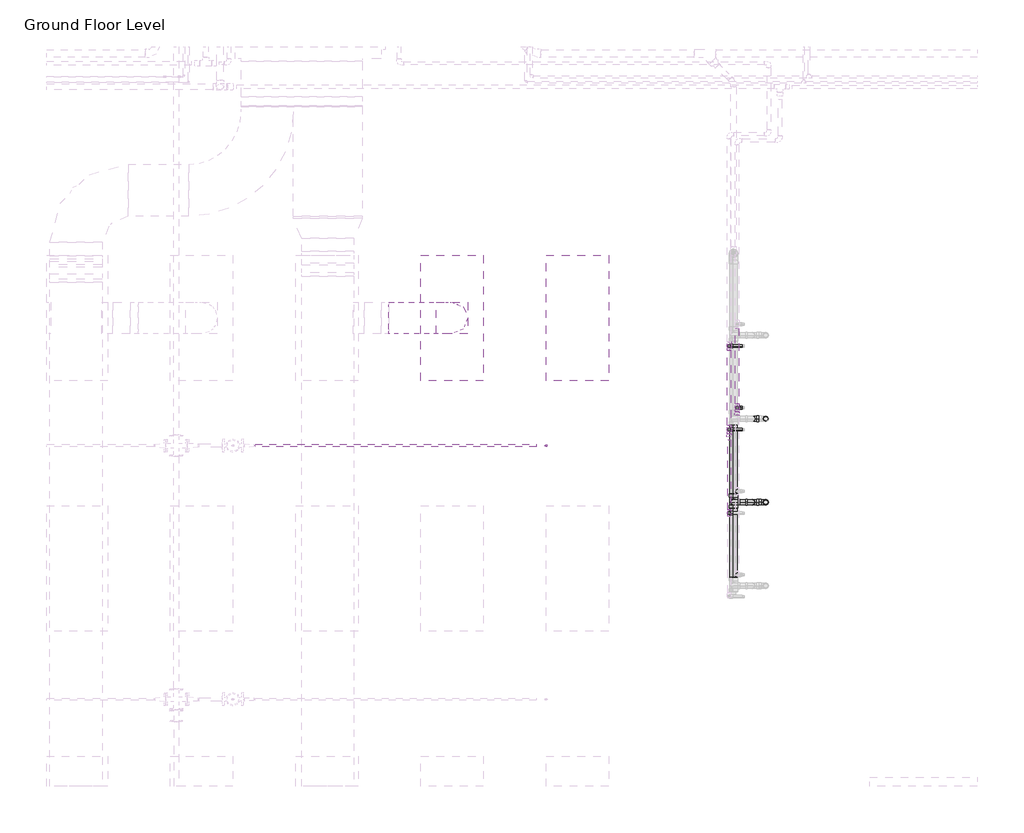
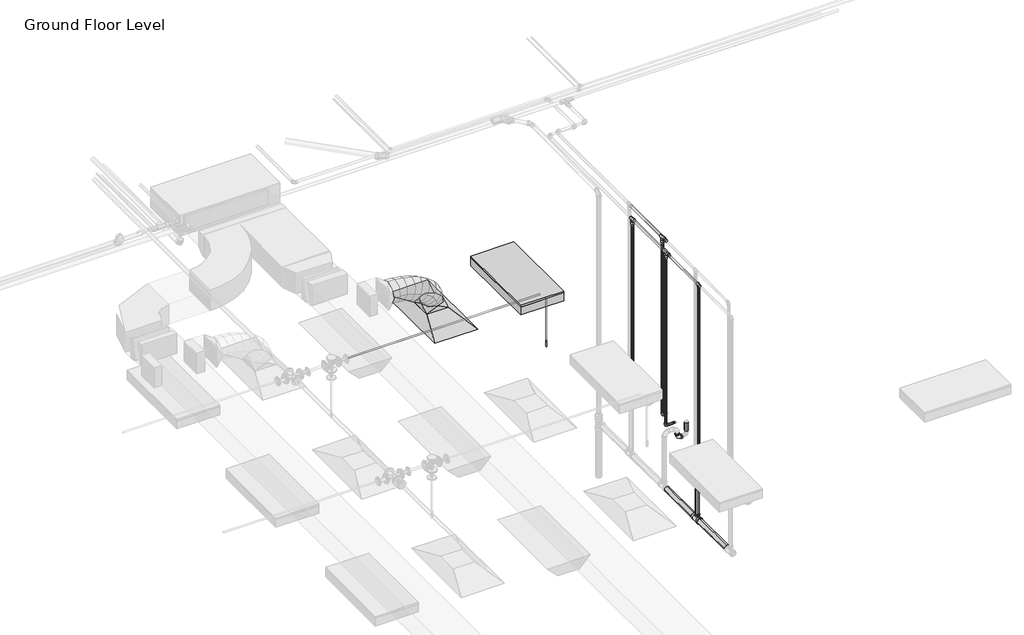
# One storey, part 50 of 74: 22 pipe segments, 19 pipe fittings, 1 air terminal, 1 duct fitting, 1 duct segment, 1 fire suppression terminal, 1 light fixture.
"""IFC4 building model written with IfcOpenShell, lengths in millimetres."""

from ifc_helpers import new_model, si_unit, point, frame, frame_2d, origin, place, context, project, spatial, circle_curve, ellipse_curve, trimmed, segment, composite_curve, outline, extrude, transform, mapped, element, save
from ifc_brep_helpers import plane_surface, cylinder_surface, advanced_brep
from components import m_return_diffuser_1200x600_1200_x_600_face_300_x_300_d1983ef6, m_rectangular_to_round_transition_angle_45_degree_641efff0, m_sprinkler_dry_pendent_hosted_15_mm_dry_pendent_9bda8e11, m_troffer_light_parabolic_rectangular1_0600x1200mm_4_lamp_86473d4a, m_bend_pvc_sch_40_dwv_standard_738aab8b, m_tee_reducing_sanitary_pvc_sch_40_dwv_standard_21d2848c, standard_b266ab3f, standard_72b35c3b, standard_e954f56a, standard_636910a4, standard_e5aa6446

model = new_model("IFC4")

# Units and contexts
model_context = context("Model", 3, world=origin())
ifc_project = project(units=[si_unit("LENGTHUNIT", "METRE", prefix="MILLI")], contexts=[model_context])

# Site, building, storey
site = spatial("IfcSite", under=ifc_project)
building = spatial("IfcBuilding", under=site)
storey = spatial("IfcBuildingStorey", under=building, Name="Ground Floor Level", Elevation=900.0)

# Air terminal
placement = place(None, origin())
m_return_diffuser_1200x600_1200_x_600_face_300_x_300_shape = m_return_diffuser_1200x600_1200_x_600_face_300_x_300_d1983ef6(model_context)
element("IfcAirTerminal", 1, ObjectType="M_Supply Diffuser 1200x600 : 1200 x 600 Face 300 x 300 Connection", at=placement, inside=storey, context=model_context, shape_type="MappedRepresentation", body=[
    mapped(m_return_diffuser_1200x600_1200_x_600_face_300_x_300_shape, transform((-3337.2327605, 11235.2153534, 3650.0), x_axis=(0.0, 1.0, 0.0), y_axis=(-1.0, 0.0, 0.0), z_axis=(0.0, 0.0, 1.0))),
])

# Duct fitting
m_rectangular_to_round_transition_angle_45_degree_shape = m_rectangular_to_round_transition_angle_45_degree_641efff0(model_context)
element("IfcDuctFitting", 2, ObjectType="M_Rectangular to Round Transition - Angle : 45 Degree", at=placement, inside=storey, context=model_context, shape_type="MappedRepresentation", body=[
    mapped(m_rectangular_to_round_transition_angle_45_degree_shape, transform((-3337.2327605, 11235.2153534, 3751.6), x_axis=(0.0, 0.0, 1.0), y_axis=(-1.0, 0.0, 0.0), z_axis=(0.0, -1.0, 0.0))),
])

# Duct segment
element("IfcDuctSegment", 3, ObjectType="Flex - Round", at=placement, inside=storey, context=model_context, shape_type="AdvancedBrep", body=[
    advanced_brep(
    [(-3187.2327605, 11235.2153534, 3826.6), (-3337.2327605, 11085.2153534, 3826.6), (-3487.2327605, 11235.2153534, 3826.6), (-3337.2327605, 11385.2153534, 3826.6), (-3187.2327605, 11235.2153534, 3882.126257), (-3337.2327605, 11085.2153534, 3857.3050511), (-3487.2327605, 11235.2153534, 3832.4838453), (-3337.2327605, 11385.2153534, 3857.3050511), (-3218.4262882, 11235.2153534, 3973.8000574), (-3353.8942835, 11085.2153534, 3906.2711428), (-3489.3622789, 11235.2153534, 3838.7422282), (-3353.8942835, 11385.2153534, 3906.2711428), (-3288.1608022, 11235.2153534, 4076.4131518), (-3399.7726231, 11085.2153534, 3973.7803017), (-3511.3844439, 11235.2153534, 3871.1474515), (-3399.7726231, 11385.2153534, 3973.7803017), (-3386.0893727, 11235.2153534, 4155.7119505), (-3468.7084348, 11085.2153534, 4029.6018768), (-3551.3274968, 11235.2153534, 3903.4918031), (-3468.7084348, 11385.2153534, 4029.6018768), (-3494.8345319, 11235.2153534, 4212.2274343), (-3554.5423743, 11085.2153534, 4074.2102682), (-3614.2502168, 11235.2153534, 3936.193102), (-3554.5423743, 11385.2153534, 4074.2102682), (-3609.1269227, 11235.2153534, 4252.3116148), (-3651.1150974, 11085.2153534, 4108.0798761), (-3693.1032721, 11235.2153534, 3963.8481373), (-3651.1150974, 11385.2153534, 4108.0798761), (-3724.8585456, 11235.2153534, 4279.3191535), (-3752.2672597, 11085.2153534, 4131.6851006), (-3779.6759737, 11235.2153534, 3984.0510476), (-3752.2672597, 11385.2153534, 4131.6851006), (-3837.5181627, 11235.2153534, 4294.9502122), (-3851.8395168, 11085.2153534, 4145.5003418), (-3866.1608709, 11235.2153534, 3996.0504715), (-3851.8395168, 11385.2153534, 4145.5003418), (-3932.3402653, 11235.2153534, 4300.0), (-3936.3315914, 11085.2153534, 4150.0), (-3940.3229175, 11235.2153534, 4000.0), (-3936.3315914, 11385.2153534, 4150.0), (-3943.6725245, 11235.2153534, 4300.0), (-3943.6725245, 11385.2153534, 4150.0), (-3943.6725245, 11235.2153534, 4000.0), (-3943.6725245, 11085.2153534, 4150.0)],
    [
        (0, 1, circle_curve(frame((-3337.2327605, 11235.2153534, 3826.6), z_axis=(0.0, 0.0, -1.0), x_axis=(1.0, 0.0, 0.0)), 150.0)),
        (1, 2, circle_curve(frame((-3337.2327605, 11235.2153534, 3826.6), z_axis=(0.0, 0.0, -1.0), x_axis=(1.0, 0.0, 0.0)), 150.0)),
        (2, 3, circle_curve(frame((-3337.2327605, 11235.2153534, 3826.6), z_axis=(0.0, 0.0, -1.0), x_axis=(1.0, 0.0, 0.0)), 150.0)),
        (3, 0, circle_curve(frame((-3337.2327605, 11235.2153534, 3826.6), z_axis=(0.0, 0.0, -1.0), x_axis=(1.0, 0.0, 0.0)), 150.0)),
        (0, 4),
        (4, 5, ellipse_curve(frame((-3337.2327605, 11235.2153534, 3857.3050511), z_axis=(0.16325469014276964, 0.0, -0.9865839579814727), x_axis=(-0.9865839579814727, 0.0, -0.16325469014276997)), 152.039772, 150.0)),
        (5, 1),
        (5, 6, ellipse_curve(frame((-3337.2327605, 11235.2153534, 3857.3050511), z_axis=(0.16325469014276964, 0.0, -0.9865839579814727), x_axis=(-0.9865839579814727, 0.0, -0.16325469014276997)), 152.039772, 150.0)),
        (6, 2),
        (6, 7, ellipse_curve(frame((-3337.2327605, 11235.2153534, 3857.3050511), z_axis=(0.16325469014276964, 0.0, -0.9865839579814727), x_axis=(-0.9865839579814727, 0.0, -0.16325469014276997)), 152.039772, 150.0)),
        (7, 3),
        (7, 4, ellipse_curve(frame((-3337.2327605, 11235.2153534, 3857.3050511), z_axis=(0.16325469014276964, 0.0, -0.9865839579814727), x_axis=(-0.9865839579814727, 0.0, -0.16325469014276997)), 152.039772, 150.0)),
        (4, 8),
        (8, 9, ellipse_curve(frame((-3353.8942835, 11235.2153534, 3906.2711428), z_axis=(0.4461293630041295, 0.0, -0.8949684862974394), x_axis=(-0.8949684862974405, 0.0, -0.4461293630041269)), 151.3662184, 150.0)),
        (9, 5),
        (9, 10, ellipse_curve(frame((-3353.8942835, 11235.2153534, 3906.2711428), z_axis=(0.4461293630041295, 0.0, -0.8949684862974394), x_axis=(-0.8949684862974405, 0.0, -0.4461293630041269)), 151.3662184, 150.0)),
        (10, 6),
        (10, 11, ellipse_curve(frame((-3353.8942835, 11235.2153534, 3906.2711428), z_axis=(0.4461293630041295, 0.0, -0.8949684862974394), x_axis=(-0.8949684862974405, 0.0, -0.4461293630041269)), 151.3662184, 150.0)),
        (11, 7),
        (11, 8, ellipse_curve(frame((-3353.8942835, 11235.2153534, 3906.2711428), z_axis=(0.4461293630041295, 0.0, -0.8949684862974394), x_axis=(-0.8949684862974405, 0.0, -0.4461293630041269)), 151.3662184, 150.0)),
        (8, 12),
        (12, 13, ellipse_curve(frame((-3399.7726231, 11235.2153534, 3973.7803017), z_axis=(0.6768778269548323, 0.0, -0.7360953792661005), x_axis=(-0.7360953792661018, 0.0, -0.676877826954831)), 151.6268462, 150.0)),
        (13, 9),
        (13, 14, ellipse_curve(frame((-3399.7726231, 11235.2153534, 3973.7803017), z_axis=(0.6768778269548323, 0.0, -0.7360953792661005), x_axis=(-0.7360953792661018, 0.0, -0.676877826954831)), 151.6268462, 150.0)),
        (14, 10),
        (14, 15, ellipse_curve(frame((-3399.7726231, 11235.2153534, 3973.7803017), z_axis=(0.6768778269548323, 0.0, -0.7360953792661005), x_axis=(-0.7360953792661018, 0.0, -0.676877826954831)), 151.6268462, 150.0)),
        (15, 11),
        (15, 12, ellipse_curve(frame((-3399.7726231, 11235.2153534, 3973.7803017), z_axis=(0.6768778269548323, 0.0, -0.7360953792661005), x_axis=(-0.7360953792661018, 0.0, -0.676877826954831)), 151.6268462, 150.0)),
        (12, 16),
        (16, 17, ellipse_curve(frame((-3468.7084348, 11235.2153534, 4029.6018768), z_axis=(0.8364756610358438, 0.0, -0.5480040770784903), x_axis=(-0.5480040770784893, 0.0, -0.8364756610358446)), 150.7635901, 150.0)),
        (17, 13),
        (17, 18, ellipse_curve(frame((-3468.7084348, 11235.2153534, 4029.6018768), z_axis=(0.8364756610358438, 0.0, -0.5480040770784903), x_axis=(-0.5480040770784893, 0.0, -0.8364756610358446)), 150.7635901, 150.0)),
        (18, 14),
        (18, 19, ellipse_curve(frame((-3468.7084348, 11235.2153534, 4029.6018768), z_axis=(0.8364756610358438, 0.0, -0.5480040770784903), x_axis=(-0.5480040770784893, 0.0, -0.8364756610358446)), 150.7635901, 150.0)),
        (19, 15),
        (19, 16, ellipse_curve(frame((-3468.7084348, 11235.2153534, 4029.6018768), z_axis=(0.8364756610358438, 0.0, -0.5480040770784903), x_axis=(-0.5480040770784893, 0.0, -0.8364756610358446)), 150.7635901, 150.0)),
        (16, 20),
        (20, 21, ellipse_curve(frame((-3554.5423743, 11235.2153534, 4074.2102682), z_axis=(0.9177970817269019, 0.0, -0.3970497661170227), x_axis=(-0.39704976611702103, 0.0, -0.9177970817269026)), 150.3787372, 150.0)),
        (21, 17),
        (21, 22, ellipse_curve(frame((-3554.5423743, 11235.2153534, 4074.2102682), z_axis=(0.9177970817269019, 0.0, -0.3970497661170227), x_axis=(-0.39704976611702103, 0.0, -0.9177970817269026)), 150.3787372, 150.0)),
        (22, 18),
        (22, 23, ellipse_curve(frame((-3554.5423743, 11235.2153534, 4074.2102682), z_axis=(0.9177970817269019, 0.0, -0.3970497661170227), x_axis=(-0.39704976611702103, 0.0, -0.9177970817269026)), 150.3787372, 150.0)),
        (23, 19),
        (23, 20, ellipse_curve(frame((-3554.5423743, 11235.2153534, 4074.2102682), z_axis=(0.9177970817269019, 0.0, -0.3970497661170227), x_axis=(-0.39704976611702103, 0.0, -0.9177970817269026)), 150.3787372, 150.0)),
        (20, 24),
        (24, 25, ellipse_curve(frame((-3651.1150974, 11235.2153534, 4108.0798761), z_axis=(0.9601419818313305, 0.0, -0.2795127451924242), x_axis=(-0.2795127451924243, 0.0, -0.9601419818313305)), 150.2191774, 150.0)),
        (25, 21),
        (25, 26, ellipse_curve(frame((-3651.1150974, 11235.2153534, 4108.0798761), z_axis=(0.9601419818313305, 0.0, -0.2795127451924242), x_axis=(-0.2795127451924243, 0.0, -0.9601419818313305)), 150.2191774, 150.0)),
        (26, 22),
        (26, 27, ellipse_curve(frame((-3651.1150974, 11235.2153534, 4108.0798761), z_axis=(0.9601419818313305, 0.0, -0.2795127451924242), x_axis=(-0.2795127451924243, 0.0, -0.9601419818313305)), 150.2191774, 150.0)),
        (27, 23),
        (27, 24, ellipse_curve(frame((-3651.1150974, 11235.2153534, 4108.0798761), z_axis=(0.9601419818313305, 0.0, -0.2795127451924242), x_axis=(-0.2795127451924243, 0.0, -0.9601419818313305)), 150.2191774, 150.0)),
        (24, 28),
        (28, 29, ellipse_curve(frame((-3752.2672597, 11235.2153534, 4131.6851006), z_axis=(0.9831995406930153, 0.0, -0.18253400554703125), x_axis=(-0.18253400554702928, 0.0, -0.9831995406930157)), 150.1567554, 150.0)),
        (29, 25),
        (29, 30, ellipse_curve(frame((-3752.2672597, 11235.2153534, 4131.6851006), z_axis=(0.9831995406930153, 0.0, -0.18253400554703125), x_axis=(-0.18253400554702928, 0.0, -0.9831995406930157)), 150.1567554, 150.0)),
        (30, 26),
        (30, 31, ellipse_curve(frame((-3752.2672597, 11235.2153534, 4131.6851006), z_axis=(0.9831995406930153, 0.0, -0.18253400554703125), x_axis=(-0.18253400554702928, 0.0, -0.9831995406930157)), 150.1567554, 150.0)),
        (31, 27),
        (31, 28, ellipse_curve(frame((-3752.2672597, 11235.2153534, 4131.6851006), z_axis=(0.9831995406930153, 0.0, -0.18253400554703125), x_axis=(-0.18253400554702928, 0.0, -0.9831995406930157)), 150.1567554, 150.0)),
        (28, 32),
        (32, 33, ellipse_curve(frame((-3851.8395168, 11235.2153534, 4145.5003418), z_axis=(0.9954399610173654, 0.0, -0.09539016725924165), x_axis=(-0.09539016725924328, 0.0, -0.9954399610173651)), 150.1344895, 150.0)),
        (33, 29),
        (33, 34, ellipse_curve(frame((-3851.8395168, 11235.2153534, 4145.5003418), z_axis=(0.9954399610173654, 0.0, -0.09539016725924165), x_axis=(-0.09539016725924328, 0.0, -0.9954399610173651)), 150.1344895, 150.0)),
        (34, 30),
        (34, 35, ellipse_curve(frame((-3851.8395168, 11235.2153534, 4145.5003418), z_axis=(0.9954399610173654, 0.0, -0.09539016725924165), x_axis=(-0.09539016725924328, 0.0, -0.9954399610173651)), 150.1344895, 150.0)),
        (35, 31),
        (35, 32, ellipse_curve(frame((-3851.8395168, 11235.2153534, 4145.5003418), z_axis=(0.9954399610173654, 0.0, -0.09539016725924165), x_axis=(-0.09539016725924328, 0.0, -0.9954399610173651)), 150.1344895, 150.0)),
        (32, 36),
        (36, 37, ellipse_curve(frame((-3936.3315914, 11235.2153534, 4150.0), z_axis=(0.9996461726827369, 0.0, -0.026599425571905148), x_axis=(-0.026599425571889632, 0.0, -0.9996461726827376)), 150.0530929, 150.0)),
        (37, 33),
        (37, 38, ellipse_curve(frame((-3936.3315914, 11235.2153534, 4150.0), z_axis=(0.9996461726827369, 0.0, -0.026599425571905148), x_axis=(-0.026599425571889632, 0.0, -0.9996461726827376)), 150.0530929, 150.0)),
        (38, 34),
        (38, 39, ellipse_curve(frame((-3936.3315914, 11235.2153534, 4150.0), z_axis=(0.9996461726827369, 0.0, -0.026599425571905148), x_axis=(-0.026599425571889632, 0.0, -0.9996461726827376)), 150.0530929, 150.0)),
        (39, 35),
        (39, 36, ellipse_curve(frame((-3936.3315914, 11235.2153534, 4150.0), z_axis=(0.9996461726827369, 0.0, -0.026599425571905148), x_axis=(-0.026599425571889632, 0.0, -0.9996461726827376)), 150.0530929, 150.0)),
        (40, 41, circle_curve(frame((-3943.6725245, 11235.2153534, 4150.0), z_axis=(-1.0, 0.0, 0.0), x_axis=(0.0, 0.0, 1.0)), 150.0)),
        (41, 42, circle_curve(frame((-3943.6725245, 11235.2153534, 4150.0), z_axis=(-1.0, 0.0, 0.0), x_axis=(0.0, 0.0, 1.0)), 150.0)),
        (42, 43, circle_curve(frame((-3943.6725245, 11235.2153534, 4150.0), z_axis=(-1.0, 0.0, 0.0), x_axis=(0.0, 0.0, 1.0)), 150.0)),
        (43, 40, circle_curve(frame((-3943.6725245, 11235.2153534, 4150.0), z_axis=(-1.0, 0.0, 0.0), x_axis=(0.0, 0.0, 1.0)), 150.0)),
        (36, 40),
        (43, 37),
        (42, 38),
        (41, 39),
    ],
    [
        plane_surface(frame((-3337.2327605, 11085.2153534, 3826.6), z_axis=(0.0, 0.0, -1.0), x_axis=(1.0, 0.0, 0.0))),
        cylinder_surface(frame((-3337.2327605, 11235.2153534, 3826.6), z_axis=(0.0, 0.0, -1.0), x_axis=(1.0, 0.0, 0.0)), 150.0),
        cylinder_surface(frame((-3337.2327605, 11235.2153534, 3857.3050511), z_axis=(0.3221289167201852, 0.0, -0.9466958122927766), x_axis=(0.9466958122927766, 0.0, 0.3221289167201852)), 150.0),
        cylinder_surface(frame((-3353.8942835, 11235.2153534, 3906.2711428), z_axis=(0.5620763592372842, 0.0, -0.827085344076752), x_axis=(0.827085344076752, 0.0, 0.5620763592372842)), 150.0),
        cylinder_surface(frame((-3399.7726231, 11235.2153534, 3973.7803017), z_axis=(0.7771544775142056, 0.0, -0.6293098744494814), x_axis=(0.6293098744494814, 0.0, 0.7771544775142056)), 150.0),
        cylinder_surface(frame((-3468.7084348, 11235.2153534, 4029.6018768), z_axis=(0.8873236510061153, 0.0, -0.4611471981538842), x_axis=(0.4611471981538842, 0.0, 0.8873236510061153)), 150.0),
        cylinder_surface(frame((-3554.5423743, 11235.2153534, 4074.2102682), z_axis=(0.9436474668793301, 0.0, -0.3309523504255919), x_axis=(0.3309523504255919, 0.0, 0.9436474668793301)), 150.0),
        cylinder_surface(frame((-3651.1150974, 11235.2153534, 4108.0798761), z_axis=(0.9738347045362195, 0.0, -0.22725749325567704), x_axis=(0.22725749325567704, 0.0, 0.9738347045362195)), 150.0),
        cylinder_surface(frame((-3752.2672597, 11235.2153534, 4131.6851006), z_axis=(0.9905115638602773, 0.0, -0.1374294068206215), x_axis=(0.1374294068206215, 0.0, 0.9905115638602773)), 150.0),
        cylinder_surface(frame((-3851.8395168, 11235.2153534, 4145.5003418), z_axis=(0.9985849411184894, 0.0, -0.05318002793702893), x_axis=(0.05318002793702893, 0.0, 0.9985849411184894)), 150.0),
        plane_surface(frame((-3943.6725245, 11235.2153534, 4000.0), z_axis=(-1.0, 0.0, 0.0), x_axis=(0.0, -1.0, 0.0))),
        cylinder_surface(frame((-3936.3315914, 11235.2153534, 4150.0), z_axis=(1.0, 0.0, 0.0), x_axis=(0.0, 0.0, 1.0)), 150.0),
    ],
    [
        (0, [[1, 2, 3, 4]]),
        (1, [[-1, 5, 6, 7]]),
        (1, [[-2, -7, 8, 9]]),
        (1, [[-3, -9, 10, 11]]),
        (1, [[-4, -11, 12, -5]]),
        (2, [[-6, 13, 14, 15]]),
        (2, [[-8, -15, 16, 17]]),
        (2, [[-10, -17, 18, 19]]),
        (2, [[-12, -19, 20, -13]]),
        (3, [[-14, 21, 22, 23]]),
        (3, [[-16, -23, 24, 25]]),
        (3, [[-18, -25, 26, 27]]),
        (3, [[-20, -27, 28, -21]]),
        (4, [[-22, 29, 30, 31]]),
        (4, [[-24, -31, 32, 33]]),
        (4, [[-26, -33, 34, 35]]),
        (4, [[-28, -35, 36, -29]]),
        (5, [[-30, 37, 38, 39]]),
        (5, [[-32, -39, 40, 41]]),
        (5, [[-34, -41, 42, 43]]),
        (5, [[-36, -43, 44, -37]]),
        (6, [[-38, 45, 46, 47]]),
        (6, [[-40, -47, 48, 49]]),
        (6, [[-42, -49, 50, 51]]),
        (6, [[-44, -51, 52, -45]]),
        (7, [[-46, 53, 54, 55]]),
        (7, [[-48, -55, 56, 57]]),
        (7, [[-50, -57, 58, 59]]),
        (7, [[-52, -59, 60, -53]]),
        (8, [[-54, 61, 62, 63]]),
        (8, [[-56, -63, 64, 65]]),
        (8, [[-58, -65, 66, 67]]),
        (8, [[-60, -67, 68, -61]]),
        (9, [[-62, 69, 70, 71]]),
        (9, [[-64, -71, 72, 73]]),
        (9, [[-66, -73, 74, 75]]),
        (9, [[-68, -75, 76, -69]]),
        (10, [[77, 78, 79, 80]]),
        (11, [[-70, 81, -80, 82]]),
        (11, [[-72, -82, -79, 83]]),
        (11, [[-74, -83, -78, 84]]),
        (11, [[-76, -84, -77, -81]]),
    ],
),
])

# Fire suppression terminal
m_sprinkler_dry_pendent_hosted_15_mm_dry_pendent_shape = m_sprinkler_dry_pendent_hosted_15_mm_dry_pendent_9bda8e11(model_context)
element("IfcFireSuppressionTerminal", 4, ObjectType="M_Sprinkler - Dry - Pendent - Hosted : 15 mm Dry Pendent", at=placement, inside=storey, context=model_context, shape_type="MappedRepresentation", body=[
    mapped(m_sprinkler_dry_pendent_hosted_15_mm_dry_pendent_shape, transform((-2437.2327605, 10013.008259, 3650.0), x_axis=(1.0, 0.0, 0.0), y_axis=(0.0, -1.0, 0.0), z_axis=(0.0, 0.0, -1.0))),
])

# Light fixture
m_troffer_light_parabolic_rectangular1_0600x1200mm_4_lamp_shape = m_troffer_light_parabolic_rectangular1_0600x1200mm_4_lamp_86473d4a(model_context)
element("IfcLightFixture", 5, ObjectType="M_Troffer Light - Parabolic Rectangular1 : 0600x1200mm(4 Lamp) - 277V 2", at=placement, inside=storey, context=model_context, shape_type="MappedRepresentation", body=[
    mapped(m_troffer_light_parabolic_rectangular1_0600x1200mm_4_lamp_shape, transform((-2196.6986926, 11253.918855, 3650.0), x_axis=(0.0, 1.0, 0.0), y_axis=(-1.0, 0.0, 0.0), z_axis=(0.0, 0.0, 1.0))),
])

# Pipe fittings
m_bend_pvc_sch_40_dwv_standard_shape = m_bend_pvc_sch_40_dwv_standard_738aab8b(model_context)
element("IfcPipeFitting", 6, ObjectType="M_Bend - PVC - Sch 40 - DWV : Standard", at=placement, inside=storey, context=model_context, shape_type="MappedRepresentation", body=[
    mapped(m_bend_pvc_sch_40_dwv_standard_shape, transform((-463.6645494, 9471.1979139, 1370.0), x_axis=(-1.0, 0.0, 0.0), y_axis=(0.0, 0.0, 1.0), z_axis=(0.0, 1.0, 0.0))),
])
element("IfcPipeFitting", 7, ObjectType="M_Bend - PVC - Sch 40 - DWV : Standard", at=placement, inside=storey, context=model_context, shape_type="MappedRepresentation", body=[
    mapped(m_bend_pvc_sch_40_dwv_standard_shape, transform((-463.6645494, 9471.1979139, 1510.0), x_axis=(0.0, 0.0, 1.0), y_axis=(-1.0, 0.0, 0.0), z_axis=(0.0, -1.0, 0.0))),
])
element("IfcPipeFitting", 8, ObjectType="M_Bend - PVC - Sch 40 - DWV : Standard", at=placement, inside=storey, context=model_context, shape_type="MappedRepresentation", body=[
    mapped(m_bend_pvc_sch_40_dwv_standard_shape, transform((-463.6645494, 10271.1979139, 1370.0), x_axis=(-1.0, 0.0, 0.0), y_axis=(0.0, 0.0, 1.0), z_axis=(0.0, 1.0, 0.0))),
])
element("IfcPipeFitting", 9, ObjectType="M_Bend - PVC - Sch 40 - DWV : Standard", at=placement, inside=storey, context=model_context, shape_type="MappedRepresentation", body=[
    mapped(m_bend_pvc_sch_40_dwv_standard_shape, transform((-333.6645494, 9471.1979139, 1370.0), x_axis=(1.0, 0.0, 0.0), y_axis=(0.0, 0.0, 1.0), z_axis=(0.0, -1.0, 0.0))),
])
element("IfcPipeFitting", 10, ObjectType="M_Bend - PVC - Sch 40 - DWV : Standard", at=placement, inside=storey, context=model_context, shape_type="MappedRepresentation", body=[
    mapped(m_bend_pvc_sch_40_dwv_standard_shape, transform((-642.2301761, 9471.1979139, 1510.0), x_axis=(-1.0, 0.0, 0.0), y_axis=(0.0, 0.0, -1.0), z_axis=(0.0, -1.0, 0.0))),
])
m_tee_reducing_sanitary_pvc_sch_40_dwv_standard_shape = m_tee_reducing_sanitary_pvc_sch_40_dwv_standard_21d2848c(model_context)
element("IfcPipeFitting", 11, ObjectType="M_Tee Reducing Sanitary - PVC - Sch 40 - DWV : Standard", at=placement, inside=storey, context=model_context, shape_type="MappedRepresentation", body=[
    mapped(m_tee_reducing_sanitary_pvc_sch_40_dwv_standard_shape, transform((-642.2301761, 9471.1979139, 719.098886), x_axis=(0.0, -0.9999500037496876, 0.009999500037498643), y_axis=(0.0, -0.009999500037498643, -0.9999500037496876), z_axis=(1.0, 0.0, 0.0))),
])
standard_shape = standard_b266ab3f(model_context)
element("IfcPipeFitting", 12, ObjectType="M_Elbow - CPVC - Sch 40 : Standard", at=placement, inside=storey, context=model_context, shape_type="MappedRepresentation", body=[
    mapped(standard_shape, transform((-607.2327605, 10375.5128345, 1690.0), x_axis=(0.0, 0.0, -1.0), y_axis=(1.0, 0.0, 0.0), z_axis=(0.0, -1.0, 0.0))),
])
element("IfcPipeFitting", 13, ObjectType="M_Elbow - CPVC - Sch 40 : Standard", at=placement, inside=storey, context=model_context, shape_type="MappedRepresentation", body=[
    mapped(standard_shape, transform((-684.0671674, 9366.8829933, 1690.0), x_axis=(-1.0, 0.0, 0.0), y_axis=(0.0, 0.0, 1.0), z_axis=(0.0, 1.0, 0.0))),
])
element("IfcPipeFitting", 14, ObjectType="M_Elbow - CPVC - Sch 40 : Standard", at=placement, inside=storey, context=model_context, shape_type="MappedRepresentation", body=[
    mapped(standard_shape, transform((-684.0671674, 10166.8829933, 1690.0), x_axis=(-1.0, 0.0, 0.0), y_axis=(0.0, 0.0, 1.0), z_axis=(0.0, 1.0, 0.0))),
])
element("IfcPipeFitting", 15, ObjectType="M_Elbow - CPVC - Sch 40 : Standard", at=placement, inside=storey, context=model_context, shape_type="MappedRepresentation", body=[
    mapped(standard_shape, transform((-684.0671674, 10966.8829933, 1690.0), x_axis=(-1.0, 0.0, 0.0), y_axis=(0.0, 0.0, 1.0), z_axis=(0.0, 1.0, 0.0))),
])
standard_2_shape = standard_72b35c3b(model_context)
element("IfcPipeFitting", 16, ObjectType="M_Tee - CPVC - Sch 40 : Standard", at=placement, inside=storey, context=model_context, shape_type="MappedRepresentation", body=[
    mapped(standard_2_shape, transform((-607.2327605, 10375.5128345, 4315.0), x_axis=(0.0, 1.0, 0.0), y_axis=(0.0, 0.0, 1.0), z_axis=(1.0, 0.0, 0.0))),
])
element("IfcPipeFitting", 17, ObjectType="M_Tee - CPVC - Sch 40 : Standard", at=placement, inside=storey, context=model_context, shape_type="MappedRepresentation", body=[
    mapped(standard_2_shape, transform((-684.0671674, 10166.8829933, 4250.0), x_axis=(0.0, -1.0, 0.0), y_axis=(0.0, 0.0, 1.0), z_axis=(-1.0, 0.0, 0.0))),
])
element("IfcPipeFitting", 18, ObjectType="M_Tee - CPVC - Sch 40 : Standard", at=placement, inside=storey, context=model_context, shape_type="MappedRepresentation", body=[
    mapped(standard_2_shape, transform((-684.0671674, 10966.8829933, 4250.0), x_axis=(0.0, -1.0, 0.0), y_axis=(0.0, 0.0, 1.0), z_axis=(-1.0, 0.0, 0.0))),
])
standard_3_shape = standard_e954f56a(model_context)
element("IfcPipeFitting", 19, ObjectType="M_Coupling Reducing - CPVC - Sch 40 : Standard", at=placement, inside=storey, context=model_context, shape_type="MappedRepresentation", body=[
    mapped(standard_3_shape, transform((-607.2327605, 10335.8126345, 4315.0), x_axis=(0.0, -1.0, 0.0), y_axis=(1.0, 0.0, 0.0), z_axis=(0.0, 0.0, 1.0))),
])
element("IfcPipeFitting", 20, ObjectType="M_Coupling Reducing - CPVC - Sch 40 : Standard", at=placement, inside=storey, context=model_context, shape_type="MappedRepresentation", body=[
    mapped(standard_3_shape, transform((-607.2327605, 10375.5128345, 4275.2998), x_axis=(0.0, 0.0, -1.0), y_axis=(0.0, -1.0, 0.0), z_axis=(-1.0, 0.0, 0.0))),
])
element("IfcPipeFitting", 21, ObjectType="M_Coupling Reducing - CPVC - Sch 40 : Standard", at=placement, inside=storey, context=model_context, shape_type="MappedRepresentation", body=[
    mapped(standard_3_shape, transform((-684.0671674, 10166.8829933, 4210.2998), x_axis=(0.0, 0.0, -1.0), y_axis=(-1.0, 0.0, 0.0), z_axis=(0.0, 1.0, 0.0))),
])
element("IfcPipeFitting", 22, ObjectType="M_Coupling Reducing - CPVC - Sch 40 : Standard", at=placement, inside=storey, context=model_context, shape_type="MappedRepresentation", body=[
    mapped(standard_3_shape, transform((-684.0671674, 10966.8829933, 4210.2998), x_axis=(0.0, 0.0, -1.0), y_axis=(-1.0, 0.0, 0.0), z_axis=(0.0, 1.0, 0.0))),
])
standard_4_shape = standard_636910a4(model_context)
element("IfcPipeFitting", 23, ObjectType="M_Tee - CPVC - Sch 40 : Standard", at=placement, inside=storey, context=model_context, shape_type="MappedRepresentation", body=[
    mapped(standard_4_shape, transform((-684.0671674, 9366.8829933, 4250.0), x_axis=(0.0, -1.0, 0.0), y_axis=(0.0, 0.0, 1.0), z_axis=(-1.0, 0.0, 0.0))),
])
standard_5_shape = standard_e5aa6446(model_context)
element("IfcPipeFitting", 24, ObjectType="M_Coupling Reducing - CPVC - Sch 40 : Standard", at=placement, inside=storey, context=model_context, shape_type="MappedRepresentation", body=[
    mapped(standard_5_shape, transform((-684.0671674, 10127.1827933, 4250.0), x_axis=(0.0, -1.0, 0.0), y_axis=(1.0, 0.0, 0.0), z_axis=(0.0, 0.0, 1.0))),
])

# Pipe segments
element("IfcPipeSegment", 25, ObjectType="CPVC", at=placement, inside=storey, context=model_context, shape_type="SweptSolid", body=[
    extrude(outline(composite_curve([segment(trimmed(circle_curve(frame_2d((10375.5128345, 1690.0)), 13.335), [point((10362.1778345, 1690.0))], [point((10375.5128345, 1703.335))], False, "CARTESIAN"), True, "CONTINUOUS"), segment(trimmed(circle_curve(frame_2d((10375.5128345, 1690.0)), 13.335), [point((10375.5128345, 1703.335))], [point((10388.8478345, 1690.0))], False, "CARTESIAN"), True, "CONTINUOUS"), segment(trimmed(circle_curve(frame_2d((10375.5128345, 1690.0)), 13.335), [point((10388.8478345, 1690.0))], [point((10375.5128345, 1676.665))], False, "CARTESIAN"), True, "CONTINUOUS"), segment(trimmed(circle_curve(frame_2d((10375.5128345, 1690.0)), 13.335), [point((10375.5128345, 1676.665))], [point((10362.1778345, 1690.0))], False, "CARTESIAN"), True, "CONTINUOUS")], self_intersect=False)), frame((-571.9077105, 0.0, 0.0), z_axis=(1.0, 0.0, 0.0), x_axis=(0.0, 1.0, 0.0)), (0.0, 0.0, 1.0), 14.67495),
])
element("IfcPipeSegment", 26, ObjectType="CPVC", at=placement, inside=storey, context=model_context, shape_type="SweptSolid", body=[
    extrude(outline(composite_curve([segment(trimmed(circle_curve(frame_2d((-607.2327605, 10375.5128345)), 13.335), [point((-593.8977605, 10375.5128345))], [point((-607.2327605, 10362.1778345))], False, "CARTESIAN"), True, "CONTINUOUS"), segment(trimmed(circle_curve(frame_2d((-607.2327605, 10375.5128345)), 13.335), [point((-607.2327605, 10362.1778345))], [point((-620.5677605, 10375.5128345))], False, "CARTESIAN"), True, "CONTINUOUS"), segment(trimmed(circle_curve(frame_2d((-607.2327605, 10375.5128345)), 13.335), [point((-620.5677605, 10375.5128345))], [point((-607.2327605, 10388.8478345))], False, "CARTESIAN"), True, "CONTINUOUS"), segment(trimmed(circle_curve(frame_2d((-607.2327605, 10375.5128345)), 13.335), [point((-607.2327605, 10388.8478345))], [point((-593.8977605, 10375.5128345))], False, "CARTESIAN"), True, "CONTINUOUS")], self_intersect=False)), frame((0.0, 0.0, 1725.32505), z_axis=(0.0, 0.0, 1.0), x_axis=(1.0, 0.0, 0.0)), (0.0, 0.0, 1.0), 2492.82475),
])
element("IfcPipeSegment", 27, ObjectType="CPVC", at=placement, inside=storey, context=model_context, shape_type="SweptSolid", body=[
    extrude(outline(composite_curve([segment(trimmed(circle_curve(frame_2d((4315.0, -607.2327605)), 16.7005), [point((4315.0, -623.9332605))], [point((4298.2995, -607.2327605))], False, "CARTESIAN"), True, "CONTINUOUS"), segment(trimmed(circle_curve(frame_2d((4315.0, -607.2327605)), 16.7005), [point((4298.2995, -607.2327605))], [point((4315.0, -590.5322605))], False, "CARTESIAN"), True, "CONTINUOUS"), segment(trimmed(circle_curve(frame_2d((4315.0, -607.2327605)), 16.7005), [point((4315.0, -590.5322605))], [point((4331.7005, -607.2327605))], False, "CARTESIAN"), True, "CONTINUOUS"), segment(trimmed(circle_curve(frame_2d((4315.0, -607.2327605)), 16.7005), [point((4331.7005, -607.2327605))], [point((4315.0, -623.9332605))], False, "CARTESIAN"), True, "CONTINUOUS")], self_intersect=False)), frame((0.0, 10415.2130345, 0.0), z_axis=(0.0, 1.0, 0.0), x_axis=(0.0, 0.0, 1.0)), (0.0, 0.0, 1.0), 720.5996),
])
element("IfcPipeSegment", 28, ObjectType="CPVC", at=placement, inside=storey, context=model_context, shape_type="SweptSolid", body=[
    extrude(outline(composite_curve([segment(trimmed(circle_curve(frame_2d((-684.0671674, 9366.8829933)), 13.335), [point((-697.4021674, 9366.8829933))], [point((-684.0671674, 9380.2179933))], False, "CARTESIAN"), True, "CONTINUOUS"), segment(trimmed(circle_curve(frame_2d((-684.0671674, 9366.8829933)), 13.335), [point((-684.0671674, 9380.2179933))], [point((-670.7321674, 9366.8829933))], False, "CARTESIAN"), True, "CONTINUOUS"), segment(trimmed(circle_curve(frame_2d((-684.0671674, 9366.8829933)), 13.335), [point((-670.7321674, 9366.8829933))], [point((-684.0671674, 9353.5479933))], False, "CARTESIAN"), True, "CONTINUOUS"), segment(trimmed(circle_curve(frame_2d((-684.0671674, 9366.8829933)), 13.335), [point((-684.0671674, 9353.5479933))], [point((-697.4021674, 9366.8829933))], False, "CARTESIAN"), True, "CONTINUOUS")], self_intersect=False)), frame((0.0, 0.0, 1725.32505), z_axis=(0.0, 0.0, 1.0), x_axis=(1.0, 0.0, 0.0)), (0.0, 0.0, 1.0), 2492.13755),
])
element("IfcPipeSegment", 29, ObjectType="CPVC", at=placement, inside=storey, context=model_context, shape_type="SweptSolid", body=[
    extrude(outline(composite_curve([segment(trimmed(circle_curve(frame_2d((10166.8829933, 1690.0)), 13.335), [point((10180.2179933, 1690.0))], [point((10166.8829933, 1676.665))], False, "CARTESIAN"), True, "CONTINUOUS"), segment(trimmed(circle_curve(frame_2d((10166.8829933, 1690.0)), 13.335), [point((10166.8829933, 1676.665))], [point((10153.5479933, 1690.0))], False, "CARTESIAN"), True, "CONTINUOUS"), segment(trimmed(circle_curve(frame_2d((10166.8829933, 1690.0)), 13.335), [point((10153.5479933, 1690.0))], [point((10166.8829933, 1703.335))], False, "CARTESIAN"), True, "CONTINUOUS"), segment(trimmed(circle_curve(frame_2d((10166.8829933, 1690.0)), 13.335), [point((10166.8829933, 1703.335))], [point((10180.2179933, 1690.0))], False, "CARTESIAN"), True, "CONTINUOUS")], self_intersect=False)), frame((-648.7421174, 0.0, 0.0), z_axis=(1.0, 0.0, 0.0), x_axis=(0.0, 1.0, 0.0)), (0.0, 0.0, 1.0), 91.5093569),
])
element("IfcPipeSegment", 30, ObjectType="CPVC", at=placement, inside=storey, context=model_context, shape_type="SweptSolid", body=[
    extrude(outline(composite_curve([segment(trimmed(circle_curve(frame_2d((-684.0671674, 10166.8829933)), 13.335), [point((-697.4021674, 10166.8829933))], [point((-684.0671674, 10180.2179933))], False, "CARTESIAN"), True, "CONTINUOUS"), segment(trimmed(circle_curve(frame_2d((-684.0671674, 10166.8829933)), 13.335), [point((-684.0671674, 10180.2179933))], [point((-670.7321674, 10166.8829933))], False, "CARTESIAN"), True, "CONTINUOUS"), segment(trimmed(circle_curve(frame_2d((-684.0671674, 10166.8829933)), 13.335), [point((-670.7321674, 10166.8829933))], [point((-684.0671674, 10153.5479933))], False, "CARTESIAN"), True, "CONTINUOUS"), segment(trimmed(circle_curve(frame_2d((-684.0671674, 10166.8829933)), 13.335), [point((-684.0671674, 10153.5479933))], [point((-697.4021674, 10166.8829933))], False, "CARTESIAN"), True, "CONTINUOUS")], self_intersect=False)), frame((0.0, 0.0, 1725.32505), z_axis=(0.0, 0.0, 1.0), x_axis=(1.0, 0.0, 0.0)), (0.0, 0.0, 1.0), 2427.82475),
])
element("IfcPipeSegment", 31, ObjectType="CPVC", at=placement, inside=storey, context=model_context, shape_type="SweptSolid", body=[
    extrude(outline(composite_curve([segment(trimmed(circle_curve(frame_2d((4250.0, -684.0671674)), 13.335), [point((4250.0, -670.7321674))], [point((4263.335, -684.0671674))], False, "CARTESIAN"), True, "CONTINUOUS"), segment(trimmed(circle_curve(frame_2d((4250.0, -684.0671674)), 13.335), [point((4263.335, -684.0671674))], [point((4250.0, -697.4021674))], False, "CARTESIAN"), True, "CONTINUOUS"), segment(trimmed(circle_curve(frame_2d((4250.0, -684.0671674)), 13.335), [point((4250.0, -697.4021674))], [point((4236.665, -684.0671674))], False, "CARTESIAN"), True, "CONTINUOUS"), segment(trimmed(circle_curve(frame_2d((4250.0, -684.0671674)), 13.335), [point((4236.665, -684.0671674))], [point((4250.0, -670.7321674))], False, "CARTESIAN"), True, "CONTINUOUS")], self_intersect=False)), frame((0.0, 9399.4203933, 0.0), z_axis=(0.0, 1.0, 0.0), x_axis=(0.0, 0.0, 1.0)), (0.0, 0.0, 1.0), 670.6124),
])
element("IfcPipeSegment", 32, ObjectType="CPVC", at=placement, inside=storey, context=model_context, shape_type="SweptSolid", body=[
    extrude(outline(composite_curve([segment(trimmed(circle_curve(frame_2d((10966.8829933, 1690.0)), 13.335), [point((10980.2179933, 1690.0))], [point((10966.8829933, 1676.665))], False, "CARTESIAN"), True, "CONTINUOUS"), segment(trimmed(circle_curve(frame_2d((10966.8829933, 1690.0)), 13.335), [point((10966.8829933, 1676.665))], [point((10953.5479933, 1690.0))], False, "CARTESIAN"), True, "CONTINUOUS"), segment(trimmed(circle_curve(frame_2d((10966.8829933, 1690.0)), 13.335), [point((10953.5479933, 1690.0))], [point((10966.8829933, 1703.335))], False, "CARTESIAN"), True, "CONTINUOUS"), segment(trimmed(circle_curve(frame_2d((10966.8829933, 1690.0)), 13.335), [point((10966.8829933, 1703.335))], [point((10980.2179933, 1690.0))], False, "CARTESIAN"), True, "CONTINUOUS")], self_intersect=False)), frame((-648.7421174, 0.0, 0.0), z_axis=(1.0, 0.0, 0.0), x_axis=(0.0, 1.0, 0.0)), (0.0, 0.0, 1.0), 91.5093569),
])
element("IfcPipeSegment", 33, ObjectType="CPVC", at=placement, inside=storey, context=model_context, shape_type="SweptSolid", body=[
    extrude(outline(composite_curve([segment(trimmed(circle_curve(frame_2d((-684.0671674, 10966.8829933)), 13.335), [point((-697.4021674, 10966.8829933))], [point((-684.0671674, 10980.2179933))], False, "CARTESIAN"), True, "CONTINUOUS"), segment(trimmed(circle_curve(frame_2d((-684.0671674, 10966.8829933)), 13.335), [point((-684.0671674, 10980.2179933))], [point((-670.7321674, 10966.8829933))], False, "CARTESIAN"), True, "CONTINUOUS"), segment(trimmed(circle_curve(frame_2d((-684.0671674, 10966.8829933)), 13.335), [point((-670.7321674, 10966.8829933))], [point((-684.0671674, 10953.5479933))], False, "CARTESIAN"), True, "CONTINUOUS"), segment(trimmed(circle_curve(frame_2d((-684.0671674, 10966.8829933)), 13.335), [point((-684.0671674, 10953.5479933))], [point((-697.4021674, 10966.8829933))], False, "CARTESIAN"), True, "CONTINUOUS")], self_intersect=False)), frame((0.0, 0.0, 1725.32505), z_axis=(0.0, 0.0, 1.0), x_axis=(1.0, 0.0, 0.0)), (0.0, 0.0, 1.0), 2427.82475),
])
element("IfcPipeSegment", 34, ObjectType="CPVC", at=placement, inside=storey, context=model_context, shape_type="SweptSolid", body=[
    extrude(outline(composite_curve([segment(trimmed(circle_curve(frame_2d((4250.0, -684.0671674)), 16.7005), [point((4250.0, -667.3666674))], [point((4266.7005, -684.0671674))], False, "CARTESIAN"), True, "CONTINUOUS"), segment(trimmed(circle_curve(frame_2d((4250.0, -684.0671674)), 16.7005), [point((4266.7005, -684.0671674))], [point((4250.0, -700.7676674))], False, "CARTESIAN"), True, "CONTINUOUS"), segment(trimmed(circle_curve(frame_2d((4250.0, -684.0671674)), 16.7005), [point((4250.0, -700.7676674))], [point((4233.2995, -684.0671674))], False, "CARTESIAN"), True, "CONTINUOUS"), segment(trimmed(circle_curve(frame_2d((4250.0, -684.0671674)), 16.7005), [point((4233.2995, -684.0671674))], [point((4250.0, -667.3666674))], False, "CARTESIAN"), True, "CONTINUOUS")], self_intersect=False)), frame((0.0, 10206.5831933, 0.0), z_axis=(0.0, 1.0, 0.0), x_axis=(0.0, 0.0, 1.0)), (0.0, 0.0, 1.0), 720.5996),
])
element("IfcPipeSegment", 35, ObjectType="PVC - DWV", at=placement, inside=storey, context=model_context, shape_type="SweptSolid", body=[
    extrude(outline(composite_curve([segment(trimmed(circle_curve(frame_2d((-333.6645494, 9471.1979139)), 24.13), [point((-357.7945494, 9471.1979139))], [point((-333.6645494, 9495.3279139))], False, "CARTESIAN"), True, "CONTINUOUS"), segment(trimmed(circle_curve(frame_2d((-333.6645494, 9471.1979139)), 24.13), [point((-333.6645494, 9495.3279139))], [point((-309.5345494, 9471.1979139))], False, "CARTESIAN"), True, "CONTINUOUS"), segment(trimmed(circle_curve(frame_2d((-333.6645494, 9471.1979139)), 24.13), [point((-309.5345494, 9471.1979139))], [point((-333.6645494, 9447.0679139))], False, "CARTESIAN"), True, "CONTINUOUS"), segment(trimmed(circle_curve(frame_2d((-333.6645494, 9471.1979139)), 24.13), [point((-333.6645494, 9447.0679139))], [point((-357.7945494, 9471.1979139))], False, "CARTESIAN"), True, "CONTINUOUS")], self_intersect=False)), frame((0.0, 0.0, 1431.8998), z_axis=(0.0, 0.0, 1.0), x_axis=(1.0, 0.0, 0.0)), (0.0, 0.0, 1.0), 118.1002),
])
element("IfcPipeSegment", 36, ObjectType="PVC - DWV", at=placement, inside=storey, context=model_context, shape_type="SweptSolid", body=[
    extrude(outline(composite_curve([segment(trimmed(circle_curve(frame_2d((9471.1979139, 1370.0)), 24.13), [point((9495.3279139, 1370.0))], [point((9471.1979139, 1345.87))], False, "CARTESIAN"), True, "CONTINUOUS"), segment(trimmed(circle_curve(frame_2d((9471.1979139, 1370.0)), 24.13), [point((9471.1979139, 1345.87))], [point((9447.0679139, 1370.0))], False, "CARTESIAN"), True, "CONTINUOUS"), segment(trimmed(circle_curve(frame_2d((9471.1979139, 1370.0)), 24.13), [point((9447.0679139, 1370.0))], [point((9471.1979139, 1394.13))], False, "CARTESIAN"), True, "CONTINUOUS"), segment(trimmed(circle_curve(frame_2d((9471.1979139, 1370.0)), 24.13), [point((9471.1979139, 1394.13))], [point((9495.3279139, 1370.0))], False, "CARTESIAN"), True, "CONTINUOUS")], self_intersect=False)), frame((-401.7647494, 0.0, 0.0), z_axis=(1.0, 0.0, 0.0), x_axis=(0.0, 1.0, 0.0)), (0.0, 0.0, 1.0), 6.2004),
])
element("IfcPipeSegment", 37, ObjectType="PVC - DWV", at=placement, inside=storey, context=model_context, shape_type="SweptSolid", body=[
    extrude(outline(composite_curve([segment(trimmed(circle_curve(frame_2d((-463.6645494, 9471.1979139)), 24.13), [point((-487.7945494, 9471.1979139))], [point((-463.6645494, 9495.3279139))], False, "CARTESIAN"), True, "CONTINUOUS"), segment(trimmed(circle_curve(frame_2d((-463.6645494, 9471.1979139)), 24.13), [point((-463.6645494, 9495.3279139))], [point((-439.5345494, 9471.1979139))], False, "CARTESIAN"), True, "CONTINUOUS"), segment(trimmed(circle_curve(frame_2d((-463.6645494, 9471.1979139)), 24.13), [point((-439.5345494, 9471.1979139))], [point((-463.6645494, 9447.0679139))], False, "CARTESIAN"), True, "CONTINUOUS"), segment(trimmed(circle_curve(frame_2d((-463.6645494, 9471.1979139)), 24.13), [point((-463.6645494, 9447.0679139))], [point((-487.7945494, 9471.1979139))], False, "CARTESIAN"), True, "CONTINUOUS")], self_intersect=False)), frame((0.0, 0.0, 1431.8998), z_axis=(0.0, 0.0, 1.0), x_axis=(1.0, 0.0, 0.0)), (0.0, 0.0, 1.0), 16.2004),
])
element("IfcPipeSegment", 38, ObjectType="PVC - DWV", at=placement, inside=storey, context=model_context, shape_type="SweptSolid", body=[
    extrude(outline(composite_curve([segment(trimmed(circle_curve(frame_2d((9471.1979139, 1510.0)), 24.13), [point((9495.3279139, 1510.0))], [point((9471.1979139, 1485.87))], False, "CARTESIAN"), True, "CONTINUOUS"), segment(trimmed(circle_curve(frame_2d((9471.1979139, 1510.0)), 24.13), [point((9471.1979139, 1485.87))], [point((9447.0679139, 1510.0))], False, "CARTESIAN"), True, "CONTINUOUS"), segment(trimmed(circle_curve(frame_2d((9471.1979139, 1510.0)), 24.13), [point((9447.0679139, 1510.0))], [point((9471.1979139, 1534.13))], False, "CARTESIAN"), True, "CONTINUOUS"), segment(trimmed(circle_curve(frame_2d((9471.1979139, 1510.0)), 24.13), [point((9471.1979139, 1534.13))], [point((9495.3279139, 1510.0))], False, "CARTESIAN"), True, "CONTINUOUS")], self_intersect=False)), frame((-580.3303761, 0.0, 0.0), z_axis=(1.0, 0.0, 0.0), x_axis=(0.0, 1.0, 0.0)), (0.0, 0.0, 1.0), 54.7660268),
])
element("IfcPipeSegment", 39, ObjectType="PVC - DWV", at=placement, inside=storey, context=model_context, shape_type="SweptSolid", body=[
    extrude(outline(composite_curve([segment(trimmed(circle_curve(frame_2d((-642.2301761, 9471.1979139)), 24.13), [point((-666.3601761, 9471.1979139))], [point((-642.2301761, 9495.3279139))], False, "CARTESIAN"), True, "CONTINUOUS"), segment(trimmed(circle_curve(frame_2d((-642.2301761, 9471.1979139)), 24.13), [point((-642.2301761, 9495.3279139))], [point((-618.1001761, 9471.1979139))], False, "CARTESIAN"), True, "CONTINUOUS"), segment(trimmed(circle_curve(frame_2d((-642.2301761, 9471.1979139)), 24.13), [point((-618.1001761, 9471.1979139))], [point((-642.2301761, 9447.0679139))], False, "CARTESIAN"), True, "CONTINUOUS"), segment(trimmed(circle_curve(frame_2d((-642.2301761, 9471.1979139)), 24.13), [point((-642.2301761, 9447.0679139))], [point((-666.3601761, 9471.1979139))], False, "CARTESIAN"), True, "CONTINUOUS")], self_intersect=False)), frame((0.0, 0.0, 799.9463422), z_axis=(0.0, 0.0, 1.0), x_axis=(1.0, 0.0, 0.0)), (0.0, 0.0, 1.0), 648.1538578),
])
element("IfcPipeSegment", 40, ObjectType="PVC - DWV", at=placement, inside=storey, context=model_context, shape_type="SweptSolid", body=[
    extrude(outline(composite_curve([segment(trimmed(circle_curve(frame_2d((-333.6645494, 10271.1979139)), 24.13), [point((-357.7945494, 10271.1979139))], [point((-333.6645494, 10295.3279139))], False, "CARTESIAN"), True, "CONTINUOUS"), segment(trimmed(circle_curve(frame_2d((-333.6645494, 10271.1979139)), 24.13), [point((-333.6645494, 10295.3279139))], [point((-309.5345494, 10271.1979139))], False, "CARTESIAN"), True, "CONTINUOUS"), segment(trimmed(circle_curve(frame_2d((-333.6645494, 10271.1979139)), 24.13), [point((-309.5345494, 10271.1979139))], [point((-333.6645494, 10247.0679139))], False, "CARTESIAN"), True, "CONTINUOUS"), segment(trimmed(circle_curve(frame_2d((-333.6645494, 10271.1979139)), 24.13), [point((-333.6645494, 10247.0679139))], [point((-357.7945494, 10271.1979139))], False, "CARTESIAN"), True, "CONTINUOUS")], self_intersect=False)), frame((0.0, 0.0, 1431.8998), z_axis=(0.0, 0.0, 1.0), x_axis=(1.0, 0.0, 0.0)), (0.0, 0.0, 1.0), 118.1002),
])
element("IfcPipeSegment", 41, ObjectType="PVC - DWV", at=placement, inside=storey, context=model_context, shape_type="SweptSolid", body=[
    extrude(outline(composite_curve([segment(trimmed(circle_curve(frame_2d((10271.1979139, 1370.0)), 24.13), [point((10295.3279139, 1370.0))], [point((10271.1979139, 1345.87))], False, "CARTESIAN"), True, "CONTINUOUS"), segment(trimmed(circle_curve(frame_2d((10271.1979139, 1370.0)), 24.13), [point((10271.1979139, 1345.87))], [point((10247.0679139, 1370.0))], False, "CARTESIAN"), True, "CONTINUOUS"), segment(trimmed(circle_curve(frame_2d((10271.1979139, 1370.0)), 24.13), [point((10247.0679139, 1370.0))], [point((10271.1979139, 1394.13))], False, "CARTESIAN"), True, "CONTINUOUS"), segment(trimmed(circle_curve(frame_2d((10271.1979139, 1370.0)), 24.13), [point((10271.1979139, 1394.13))], [point((10295.3279139, 1370.0))], False, "CARTESIAN"), True, "CONTINUOUS")], self_intersect=False)), frame((-401.7647494, 0.0, 0.0), z_axis=(1.0, 0.0, 0.0), x_axis=(0.0, 1.0, 0.0)), (0.0, 0.0, 1.0), 6.2004),
])
element("IfcPipeSegment", 42, ObjectType="PVC - DWV", at=placement, inside=storey, context=model_context, shape_type="SweptSolid", body=[
    extrude(outline(composite_curve([segment(trimmed(circle_curve(frame_2d((-463.6645494, 10271.1979139)), 24.13), [point((-487.7945494, 10271.1979139))], [point((-463.6645494, 10295.3279139))], False, "CARTESIAN"), True, "CONTINUOUS"), segment(trimmed(circle_curve(frame_2d((-463.6645494, 10271.1979139)), 24.13), [point((-463.6645494, 10295.3279139))], [point((-439.5345494, 10271.1979139))], False, "CARTESIAN"), True, "CONTINUOUS"), segment(trimmed(circle_curve(frame_2d((-463.6645494, 10271.1979139)), 24.13), [point((-439.5345494, 10271.1979139))], [point((-463.6645494, 10247.0679139))], False, "CARTESIAN"), True, "CONTINUOUS"), segment(trimmed(circle_curve(frame_2d((-463.6645494, 10271.1979139)), 24.13), [point((-463.6645494, 10247.0679139))], [point((-487.7945494, 10271.1979139))], False, "CARTESIAN"), True, "CONTINUOUS")], self_intersect=False)), frame((0.0, 0.0, 1431.8998), z_axis=(0.0, 0.0, 1.0), x_axis=(1.0, 0.0, 0.0)), (0.0, 0.0, 1.0), 16.2004),
])
element("IfcPipeSegment", 43, ObjectType="PVC - DWV", at=placement, inside=storey, context=model_context, shape_type="SweptSolid", body=[
    extrude(outline(composite_curve([segment(trimmed(circle_curve(frame_2d((0.0, -36.5125)), 36.5125), [point((36.5125, -36.5125))], [point((0.0, -73.025))], False, "CARTESIAN"), True, "CONTINUOUS"), segment(trimmed(circle_curve(frame_2d((0.0, -36.5125)), 36.5125), [point((0.0, -73.025))], [point((-36.5125, -36.5125))], False, "CARTESIAN"), True, "CONTINUOUS"), segment(trimmed(circle_curve(frame_2d((0.0, -36.5125)), 36.5125), [point((-36.5125, -36.5125))], [point((0.0, 0.0))], False, "CARTESIAN"), True, "CONTINUOUS"), segment(trimmed(circle_curve(frame_2d((0.0, -36.5125)), 36.5125), [point((0.0, 0.0))], [point((36.5125, -36.5125))], False, "CARTESIAN"), True, "CONTINUOUS")], self_intersect=False)), frame((-642.2301761, 9412.0802514, 756.2043882), z_axis=(0.0, -0.9999500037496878, 0.009999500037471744), x_axis=(1.0, 0.0, 0.0)), (0.0, 0.0, 1.0), 661.4911369),
])
element("IfcPipeSegment", 44, ObjectType="PVC - DWV", at=placement, inside=storey, context=model_context, shape_type="SweptSolid", body=[
    extrude(outline(composite_curve([segment(trimmed(circle_curve(frame_2d((0.0, -36.5125)), 36.5125), [point((36.5125, -36.5125))], [point((0.0, -73.025))], False, "CARTESIAN"), True, "CONTINUOUS"), segment(trimmed(circle_curve(frame_2d((0.0, -36.5125)), 36.5125), [point((0.0, -73.025))], [point((-36.5125, -36.5125))], False, "CARTESIAN"), True, "CONTINUOUS"), segment(trimmed(circle_curve(frame_2d((0.0, -36.5125)), 36.5125), [point((-36.5125, -36.5125))], [point((0.0, 0.0))], False, "CARTESIAN"), True, "CONTINUOUS"), segment(trimmed(circle_curve(frame_2d((0.0, -36.5125)), 36.5125), [point((0.0, 0.0))], [point((36.5125, -36.5125))], False, "CARTESIAN"), True, "CONTINUOUS")], self_intersect=False)), frame((-642.2301761, 10212.0802514, 748.2043882), z_axis=(0.0, -0.9999500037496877, 0.009999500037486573), x_axis=(1.0, 0.0, 0.0)), (0.0, 0.0, 1.0), 661.4911369),
])
element("IfcPipeSegment", 45, ObjectType="Steel flanged", at=placement, inside=storey, context=model_context, shape_type="SweptSolid", body=[
    extrude(outline(composite_curve([segment(trimmed(circle_curve(frame_2d((-2437.2327605, 10013.008259)), 10.668), [point((-2447.9007605, 10013.008259))], [point((-2437.2327605, 10023.676259))], False, "CARTESIAN"), True, "CONTINUOUS"), segment(trimmed(circle_curve(frame_2d((-2437.2327605, 10013.008259)), 10.668), [point((-2437.2327605, 10023.676259))], [point((-2426.5647605, 10013.008259))], False, "CARTESIAN"), True, "CONTINUOUS"), segment(trimmed(circle_curve(frame_2d((-2437.2327605, 10013.008259)), 10.668), [point((-2426.5647605, 10013.008259))], [point((-2437.2327605, 10002.340259))], False, "CARTESIAN"), True, "CONTINUOUS"), segment(trimmed(circle_curve(frame_2d((-2437.2327605, 10013.008259)), 10.668), [point((-2437.2327605, 10002.340259))], [point((-2447.9007605, 10013.008259))], False, "CARTESIAN"), True, "CONTINUOUS")], self_intersect=False)), frame((0.0, 0.0, 3650.0), z_axis=(0.0, 0.0, 1.0), x_axis=(1.0, 0.0, 0.0)), (0.0, 0.0, 1.0), 616.9914063),
])
element("IfcPipeSegment", 46, ObjectType="Steel flanged", at=placement, inside=storey, context=model_context, shape_type="SweptSolid", body=[
    extrude(outline(composite_curve([segment(trimmed(circle_curve(frame_2d((10013.008259, 4360.0)), 10.668), [point((10023.676259, 4360.0))], [point((10013.008259, 4349.332))], False, "CARTESIAN"), True, "CONTINUOUS"), segment(trimmed(circle_curve(frame_2d((10013.008259, 4360.0)), 10.668), [point((10013.008259, 4349.332))], [point((10002.340259, 4360.0))], False, "CARTESIAN"), True, "CONTINUOUS"), segment(trimmed(circle_curve(frame_2d((10013.008259, 4360.0)), 10.668), [point((10002.340259, 4360.0))], [point((10013.008259, 4370.668))], False, "CARTESIAN"), True, "CONTINUOUS"), segment(trimmed(circle_curve(frame_2d((10013.008259, 4360.0)), 10.668), [point((10013.008259, 4370.668))], [point((10023.676259, 4360.0))], False, "CARTESIAN"), True, "CONTINUOUS")], self_intersect=False)), frame((-5222.5241668, 0.0, 0.0), z_axis=(1.0, 0.0, 0.0), x_axis=(0.0, 1.0, 0.0)), (0.0, 0.0, 1.0), 2692.2828125),
])

save(model, "model.ifc")
